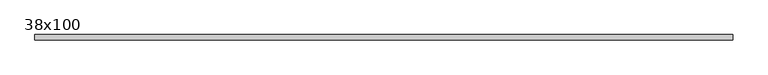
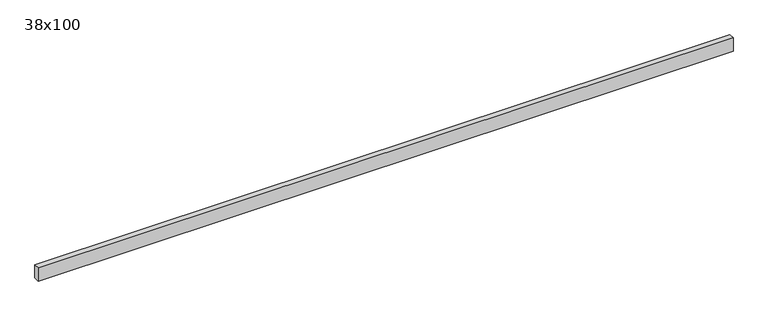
"""IFC4 building model written with IfcOpenShell, lengths in millimetres: beam geometry, Poutre - Bois de construction de dimensions courantes : 38x100."""

from ifc_helpers import new_model, si_unit, frame, origin, place, context, project, spatial, polyline, outline, extrude, source, transform, mapped, element, save


def beam_38x100_97a5e270(model_context):
    return source(origin(), model_context, "Body", "SweptSolid", [
        extrude(outline(polyline([(2464.5, 19.05), (2464.5, -19.05), (-2464.5, -19.05), (-2464.5, 19.05), (2464.5, 19.05)])), frame((0.0, 0.0, -50.0), z_axis=(0.0, 0.0, 1.0), x_axis=(1.0, 0.0, 0.0)), (0.0, 0.0, 1.0), 100.0),
    ])


if __name__ == "__main__":
    model = new_model("IFC4")
    model_context = context("Model", 3, world=origin())
    ifc_project = project(units=[si_unit("LENGTHUNIT", "METRE", prefix="MILLI")], contexts=[model_context])
    site = spatial("IfcSite", under=ifc_project)
    building = spatial("IfcBuilding", under=site)
    placement = place(None, origin())
    beam_38x100_shape = beam_38x100_97a5e270(model_context)
    element("IfcBeam", 1, ObjectType="Poutre - Bois de construction de dimensions courantes : 38x100", at=placement, inside=building, context=model_context, shape_type="MappedRepresentation", body=[
        mapped(beam_38x100_shape, transform((0.0, 0.0, 0.0), x_axis=(1.0, 0.0, 0.0), y_axis=(0.0, 1.0, 0.0), z_axis=(0.0, 0.0, 1.0))),
    ])
    save(model, "model.ifc")
